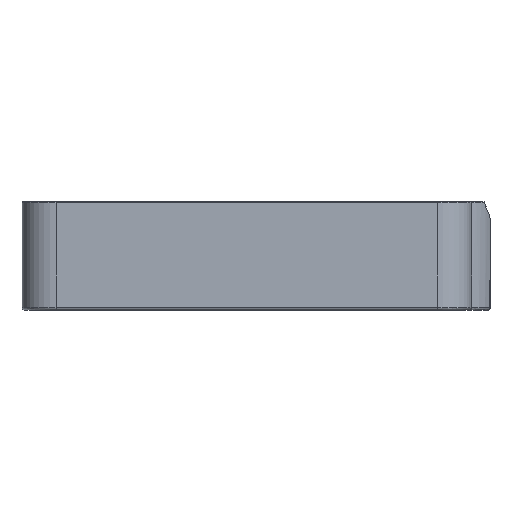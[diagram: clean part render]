
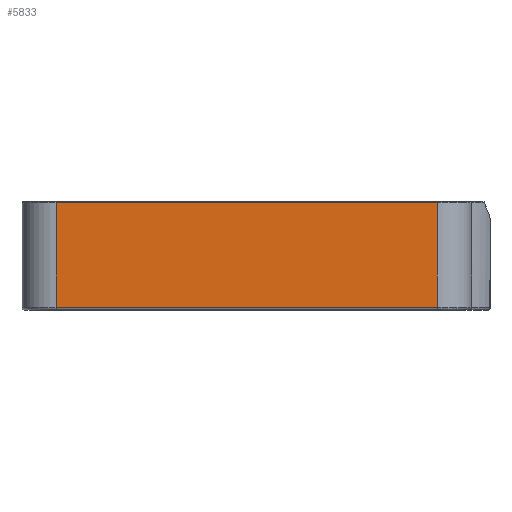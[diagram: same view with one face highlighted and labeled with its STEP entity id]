
A CAD part, left-side view. The second image highlights one B-rep face of the part: STEP entity #5833.
In plain terms, the highlighted planar face has unit normal (-1, 0, 0).
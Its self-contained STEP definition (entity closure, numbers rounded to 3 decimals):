
#80 = CARTESIAN_POINT ( 'NONE',  ( -44.5, -67., 37.8 ) ) ;
#146 = CARTESIAN_POINT ( 'NONE',  ( -44.5, 67., 37.8 ) ) ;
#409 = ORIENTED_EDGE ( 'NONE', *, *, #941, .T. ) ;
#550 = VERTEX_POINT ( 'NONE', #9303 ) ;
#819 = LINE ( 'NONE', #5044, #1314 ) ;
#941 = EDGE_CURVE ( 'NONE', #10603, #550, #8673, .T. ) ;
#1314 = VECTOR ( 'NONE', #1829, 1000. ) ;
#1756 = VERTEX_POINT ( 'NONE', #3945 ) ;
#1762 = DIRECTION ( 'NONE',  ( 0., 1., 0. ) ) ;
#1829 = DIRECTION ( 'NONE',  ( 0., 0., -1. ) ) ;
#1946 = FACE_OUTER_BOUND ( 'NONE', #7773, .T. ) ;
#2231 = ORIENTED_EDGE ( 'NONE', *, *, #5515, .T. ) ;
#2242 = DIRECTION ( 'NONE',  ( 0., -1., 0. ) ) ;
#3154 = VECTOR ( 'NONE', #4332, 1000. ) ;
#3175 = ORIENTED_EDGE ( 'NONE', *, *, #6104, .F. ) ;
#3836 = DIRECTION ( 'NONE',  ( 0., 0., -1. ) ) ;
#3945 = CARTESIAN_POINT ( 'NONE',  ( -44.5, -67., 1. ) ) ;
#4332 = DIRECTION ( 'NONE',  ( 0., 0., -1. ) ) ;
#4596 = VERTEX_POINT ( 'NONE', #7760 ) ;
#4646 = EDGE_CURVE ( 'NONE', #550, #4596, #7701, .T. ) ;
#4800 = CARTESIAN_POINT ( 'NONE',  ( -44.5, -67., 1. ) ) ;
#5044 = CARTESIAN_POINT ( 'NONE',  ( -44.5, -67., 38. ) ) ;
#5436 = VECTOR ( 'NONE', #2242, 1000. ) ;
#5515 = EDGE_CURVE ( 'NONE', #4596, #1756, #5627, .T. ) ;
#5627 = LINE ( 'NONE', #4800, #5436 ) ;
#5833 = ADVANCED_FACE ( 'NONE', ( #1946 ), #6327, .F. ) ;
#6104 = EDGE_CURVE ( 'NONE', #10603, #1756, #819, .T. ) ;
#6327 = PLANE ( 'NONE',  #10731 ) ;
#6969 = CARTESIAN_POINT ( 'NONE',  ( -44.5, -67., 38. ) ) ;
#7701 = LINE ( 'NONE', #9367, #3154 ) ;
#7760 = CARTESIAN_POINT ( 'NONE',  ( -44.5, 67., 1. ) ) ;
#7773 = EDGE_LOOP ( 'NONE', ( #3175, #409, #9813, #2231 ) ) ;
#8673 = LINE ( 'NONE', #146, #9893 ) ;
#9303 = CARTESIAN_POINT ( 'NONE',  ( -44.5, 67., 37.8 ) ) ;
#9367 = CARTESIAN_POINT ( 'NONE',  ( -44.5, 67., 38. ) ) ;
#9593 = DIRECTION ( 'NONE',  ( 1., 0., 0. ) ) ;
#9813 = ORIENTED_EDGE ( 'NONE', *, *, #4646, .T. ) ;
#9893 = VECTOR ( 'NONE', #1762, 1000. ) ;
#10603 = VERTEX_POINT ( 'NONE', #80 ) ;
#10731 = AXIS2_PLACEMENT_3D ( 'NONE', #6969, #9593, #3836 ) ;
